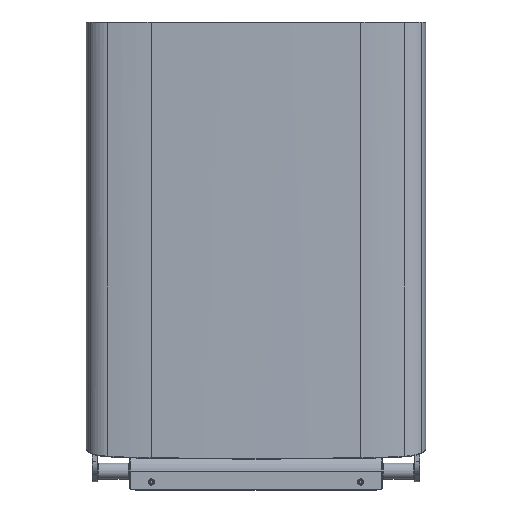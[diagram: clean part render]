
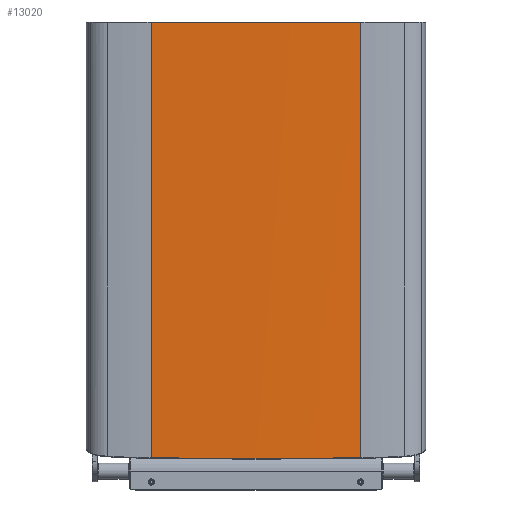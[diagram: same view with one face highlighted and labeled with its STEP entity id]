
A CAD part, front view. The second image highlights one B-rep face of the part: STEP entity #13020.
In plain terms, the highlighted cylindrical face has radius 4500 mm (diameter 9000 mm), a partial arc.
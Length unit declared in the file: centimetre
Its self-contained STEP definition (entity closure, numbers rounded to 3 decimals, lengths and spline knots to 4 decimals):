
#56=ELLIPSE('',#14464,478.8675,450.);
#1618=FACE_OUTER_BOUND('',#2682,.T.);
#2682=EDGE_LOOP('',(#10518,#10519,#10520,#10521));
#3530=LINE('',#22505,#4302);
#3531=LINE('',#22509,#4303);
#4302=VECTOR('',#17875,70.6828);
#4303=VECTOR('',#17880,70.6828);
#5130=CIRCLE('',#14501,450.);
#6136=VERTEX_POINT('',#22323);
#6138=VERTEX_POINT('',#22352);
#6165=VERTEX_POINT('',#22503);
#6166=VERTEX_POINT('',#22507);
#7663=EDGE_CURVE('',#6136,#6138,#56,.T.);
#7699=EDGE_CURVE('',#6138,#6165,#3530,.T.);
#7700=EDGE_CURVE('',#6165,#6166,#5130,.T.);
#7701=EDGE_CURVE('',#6136,#6166,#3531,.T.);
#10518=ORIENTED_EDGE('',*,*,#7700,.F.);
#10519=ORIENTED_EDGE('',*,*,#7699,.F.);
#10520=ORIENTED_EDGE('',*,*,#7663,.F.);
#10521=ORIENTED_EDGE('',*,*,#7701,.T.);
#11797=CYLINDRICAL_SURFACE('',#14500,450.);
#13020=ADVANCED_FACE('',(#1618),#11797,.T.);
#14464=AXIS2_PLACEMENT_3D('',#22353,#17798,#17799);
#14500=AXIS2_PLACEMENT_3D('',#22506,#17876,#17877);
#14501=AXIS2_PLACEMENT_3D('',#22508,#17878,#17879);
#17798=DIRECTION('center_axis',(0.,0.342,
-0.94));
#17799=DIRECTION('ref_axis',(0.,-0.94,-0.342));
#17875=DIRECTION('',(0.,0.,1.));
#17876=DIRECTION('center_axis',(0.,0.,
1.));
#17877=DIRECTION('ref_axis',(-0.038,-0.999,0.));
#17878=DIRECTION('center_axis',(0.,0.,
1.));
#17879=DIRECTION('ref_axis',(0.,-1.,0.));
#17880=DIRECTION('',(0.,0.,1.));
#22323=CARTESIAN_POINT('',(17.037,-16.7135,5.2441));
#22352=CARTESIAN_POINT('',(-17.037,-16.7135,5.2441));
#22353=CARTESIAN_POINT('Origin',(0.,432.9639,168.877));
#22503=CARTESIAN_POINT('',(-17.037,-16.7135,75.9269));
#22505=CARTESIAN_POINT('',(-17.037,-16.7135,40.5054));
#22506=CARTESIAN_POINT('Origin',(0.,432.9639,40.5054));
#22507=CARTESIAN_POINT('',(17.037,-16.7135,75.9269));
#22508=CARTESIAN_POINT('Origin',(0.,432.9639,
75.9269));
#22509=CARTESIAN_POINT('',(17.037,-16.7135,40.5054));
